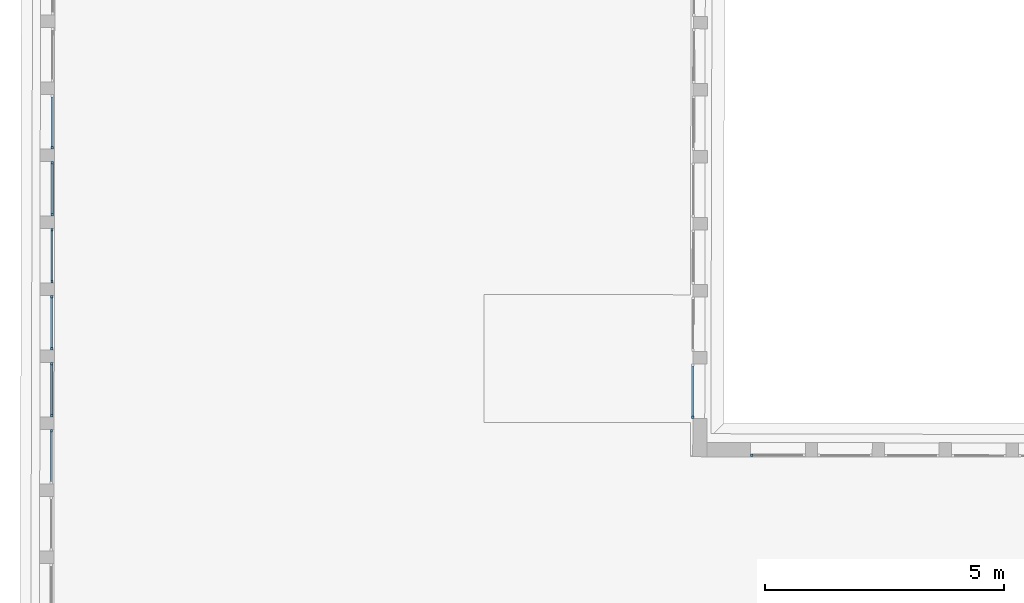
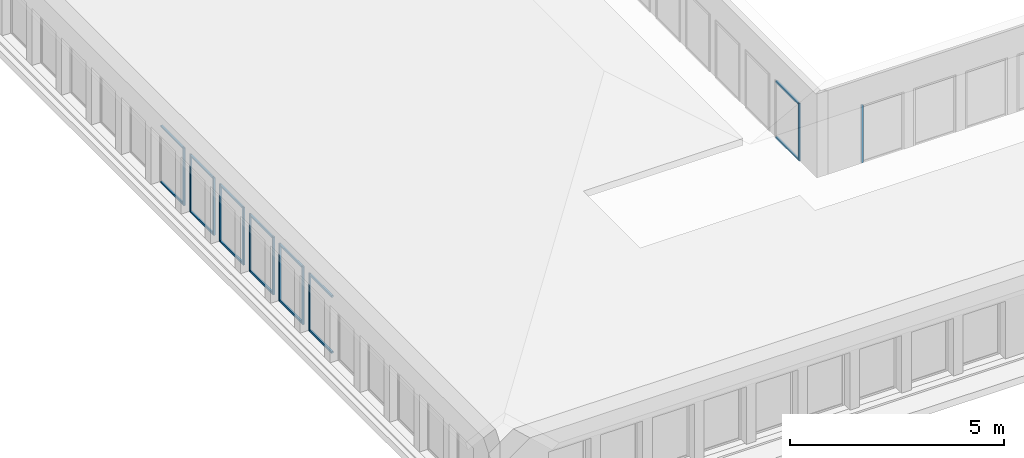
# One storey, part 3 of 26: 26 members, 8 elements without a shape of their own.
"""IFC2X3 building model written with IfcOpenShell, lengths in metres."""

from ifc_helpers import new_model, entity, si_unit, converted_unit, derived_unit, direction, frame, origin, origin_2d_with_axis, place, context, subcontext, project, spatial, rectangle, extrude, source, transform, mapped, material, type_object, type_shapes, element, aggregate, save


model = new_model("IFC2X3")

# Units and contexts
model_context = context("Model", 3, precision=1e-05, world=origin(), true_north=direction((6.123233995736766e-17, 1.0)))
body_context = subcontext(model_context, "Body", "Model", "MODEL_VIEW")
ifc_project = project(units=[si_unit("LENGTHUNIT", "METRE"), si_unit("AREAUNIT", "SQUARE_METRE"), converted_unit("PLANEANGLEUNIT", "DEGREE", entity("IfcPlaneAngleMeasure", 0.017453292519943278), si_unit("PLANEANGLEUNIT", "RADIAN"), dimensions=[0, 0, 0, 0, 0, 0, 0]), derived_unit("THERMALTRANSMITTANCEUNIT", [(si_unit("MASSUNIT", "GRAM", prefix="KILO"), 1), (si_unit("THERMODYNAMICTEMPERATUREUNIT", "KELVIN"), -1), (si_unit("TIMEUNIT", "SECOND"), -3)])], contexts=[model_context])

# Site, building, storey
site_placement = place(None, frame((1253.6752467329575, 2072.143113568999, 91.49999999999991), z_axis=(0.0, 0.0, 1.0), x_axis=(0.7237211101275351, 0.6900925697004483, 0.0)))
site = spatial("IfcSite", under=ifc_project, at=site_placement, Name="Surface", CompositionType="ELEMENT")
building_placement = place(site_placement, origin())
building = spatial("IfcBuilding", under=site, at=building_placement, CompositionType="ELEMENT")
storey_placement = place(building_placement, frame((0.0, 0.0, 7.0)))
storey = spatial("IfcBuildingStorey", under=building, at=storey_placement, Name="2-R+2", CompositionType="ELEMENT", Elevation=6.999999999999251)

# Curtain wall, member
curtain_wall_type = type_object("IfcCurtainWallType", Name="Mur-rideau:Menuiserie Ext 1F+1OB VERTIC", PredefinedType="NOTDEFINED")
curtain_wall_1_placement = place(storey_placement, frame((0.0, 0.0, -7.0)))
curtain_wall_1 = element("IfcCurtainWall", 1, at=curtain_wall_1_placement, inside=storey, type_object=curtain_wall_type, Name="Mur-rideau:Menuiserie Ext 1F+1OB VERTIC", ObjectType="Mur-rideau:Menuiserie Ext 1F+1OB VERTIC")
ifc_material = material(Name="OMD_Aluminium Men Ext")
member_type_1 = type_object("IfcMemberType", Name="Meneau rectangulaire:50x50", PredefinedType="MULLION", material=ifc_material)
shared_shape_1 = source(origin(), body_context, "Body", "SweptSolid", [
    extrude(rectangle(XDim=0.05, YDim=0.049999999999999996, at=origin_2d_with_axis()), frame((-0.025, 0.0, -1.039999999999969), z_axis=(0.0, 0.0, 1.0), x_axis=(-1.0, 0.0, 0.0)), (0.0, 0.0, 1.0), 1.0399999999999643),
])
type_shapes(member_type_1, [shared_shape_1])
member_1_placement = place(curtain_wall_1_placement, frame((155.1214810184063, 15.730383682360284, 9.55), z_axis=(0.6911544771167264, 0.7227070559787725, 0.0), x_axis=(0.0, 0.0, 1.0)))
member_1 = element("IfcMember", 2, at=member_1_placement, type_object=member_type_1, material=ifc_material, Name="Meneau rectangulaire:50x50", ObjectType="Meneau rectangulaire:50x50", context=body_context, shape_type="MappedRepresentation", body=[
    mapped(shared_shape_1, transform((0.0, 0.0, 0.0), scale=1.0)),
])

curtain_wall_2_placement = place(storey_placement, frame((0.0, 0.0, -7.0)))
curtain_wall_2 = element("IfcCurtainWall", 3, at=curtain_wall_2_placement, inside=storey, type_object=curtain_wall_type, Name="Mur-rideau:Menuiserie Ext 1F+1OB VERTIC", ObjectType="Mur-rideau:Menuiserie Ext 1F+1OB VERTIC")
member_2_placement = place(curtain_wall_2_placement, frame((154.1527155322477, 14.71969409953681, 9.55), z_axis=(0.6911544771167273, 0.7227070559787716, 0.0), x_axis=(0.0, 0.0, 1.0)))
member_2 = element("IfcMember", 4, at=member_2_placement, type_object=member_type_1, material=ifc_material, Name="Meneau rectangulaire:50x50", ObjectType="Meneau rectangulaire:50x50", context=body_context, shape_type="MappedRepresentation", body=[
    mapped(shared_shape_1, transform((0.0, 0.0, 0.0), scale=1.0)),
])

curtain_wall_3_placement = place(storey_placement, frame((0.0, 0.0, -7.0)))
curtain_wall_3 = element("IfcCurtainWall", 5, at=curtain_wall_3_placement, inside=storey, type_object=curtain_wall_type, Name="Mur-rideau:Menuiserie Ext 1F+1OB VERTIC", ObjectType="Mur-rideau:Menuiserie Ext 1F+1OB VERTIC")
member_3_placement = place(curtain_wall_3_placement, frame((153.18395004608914, 13.709004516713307, 9.55), z_axis=(0.6911544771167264, 0.7227070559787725, 0.0), x_axis=(0.0, 0.0, 1.0)))
member_3 = element("IfcMember", 6, at=member_3_placement, type_object=member_type_1, material=ifc_material, Name="Meneau rectangulaire:50x50", ObjectType="Meneau rectangulaire:50x50", context=body_context, shape_type="MappedRepresentation", body=[
    mapped(shared_shape_1, transform((0.0, 0.0, 0.0), scale=1.0)),
])

curtain_wall_4_placement = place(storey_placement, frame((0.0, 0.0, -7.0)))
curtain_wall_4 = element("IfcCurtainWall", 7, at=curtain_wall_4_placement, inside=storey, type_object=curtain_wall_type, Name="Mur-rideau:Menuiserie Ext 1F+1OB VERTIC", ObjectType="Mur-rideau:Menuiserie Ext 1F+1OB VERTIC")
member_4_placement = place(curtain_wall_4_placement, frame((152.21518455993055, 12.698314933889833, 9.55), z_axis=(0.6911544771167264, 0.7227070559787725, 0.0), x_axis=(0.0, 0.0, 1.0)))
member_4 = element("IfcMember", 8, at=member_4_placement, type_object=member_type_1, material=ifc_material, Name="Meneau rectangulaire:50x50", ObjectType="Meneau rectangulaire:50x50", context=body_context, shape_type="MappedRepresentation", body=[
    mapped(shared_shape_1, transform((0.0, 0.0, 0.0), scale=1.0)),
])

curtain_wall_5_placement = place(storey_placement, frame((0.0, 0.0, -7.0)))
curtain_wall_5 = element("IfcCurtainWall", 9, at=curtain_wall_5_placement, inside=storey, type_object=curtain_wall_type, Name="Mur-rideau:Menuiserie Ext 1F+1OB VERTIC", ObjectType="Mur-rideau:Menuiserie Ext 1F+1OB VERTIC")
member_5_placement = place(curtain_wall_5_placement, frame((151.246419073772, 11.687625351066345, 9.55), z_axis=(0.6911544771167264, 0.7227070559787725, 0.0), x_axis=(0.0, 0.0, 1.0)))
member_5 = element("IfcMember", 10, at=member_5_placement, type_object=member_type_1, material=ifc_material, Name="Meneau rectangulaire:50x50", ObjectType="Meneau rectangulaire:50x50", context=body_context, shape_type="MappedRepresentation", body=[
    mapped(shared_shape_1, transform((0.0, 0.0, 0.0), scale=1.0)),
])

curtain_wall_6_placement = place(storey_placement, frame((0.0, 0.0, -7.0)))
curtain_wall_6 = element("IfcCurtainWall", 11, at=curtain_wall_6_placement, inside=storey, type_object=curtain_wall_type, Name="Mur-rideau:Menuiserie Ext 1F+1OB VERTIC", ObjectType="Mur-rideau:Menuiserie Ext 1F+1OB VERTIC")
member_6_placement = place(curtain_wall_6_placement, frame((150.27765358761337, 10.67693576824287, 9.55), z_axis=(0.6911544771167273, 0.7227070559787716, 0.0), x_axis=(0.0, 0.0, 1.0)))
member_6 = element("IfcMember", 12, at=member_6_placement, type_object=member_type_1, material=ifc_material, Name="Meneau rectangulaire:50x50", ObjectType="Meneau rectangulaire:50x50", context=body_context, shape_type="MappedRepresentation", body=[
    mapped(shared_shape_1, transform((0.0, 0.0, 0.0), scale=1.0)),
])

curtain_wall_7_placement = place(storey_placement, frame((0.0, 0.0, -7.0)))
curtain_wall_7 = element("IfcCurtainWall", 13, at=curtain_wall_7_placement, inside=storey, type_object=curtain_wall_type, Name="Mur-rideau:Menuiserie Ext 1F+1OB VERTIC", ObjectType="Mur-rideau:Menuiserie Ext 1F+1OB VERTIC")
member_7_placement = place(curtain_wall_7_placement, frame((160.9263963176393, 2.419897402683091, 9.55), z_axis=(0.69098381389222, 0.7228702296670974, 0.0), x_axis=(0.0, 0.0, 1.0)))
member_7 = element("IfcMember", 14, at=member_7_placement, type_object=member_type_1, material=ifc_material, Name="Meneau rectangulaire:50x50", ObjectType="Meneau rectangulaire:50x50", context=body_context, shape_type="MappedRepresentation", body=[
    mapped(shared_shape_1, transform((0.0, 0.0, 0.0), scale=1.0)),
])

# Member
member_type_2 = type_object("IfcMemberType", Name="Meneau rectangulaire:50x50", PredefinedType="MULLION", material=ifc_material)
shared_shape_2 = source(origin(), body_context, "Body", "SweptSolid", [
    extrude(rectangle(XDim=0.05, YDim=0.05, at=origin_2d_with_axis()), frame((-0.025, 0.0, -1.0399999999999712), z_axis=(0.0, 0.0, 1.0), x_axis=(-1.0, 0.0, 0.0)), (0.0, 0.0, 1.0), 1.0399999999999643),
])
type_shapes(member_type_2, [shared_shape_2])
member_8_placement = place(curtain_wall_1_placement, frame((154.4026803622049, 14.978768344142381, 7.9), z_axis=(-0.6911544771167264, -0.7227070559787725, 0.0), x_axis=(0.0, 0.0, -1.0)))
member_8 = element("IfcMember", 15, at=member_8_placement, type_object=member_type_2, material=ifc_material, Name="Meneau rectangulaire:50x50", ObjectType="Meneau rectangulaire:50x50", context=body_context, shape_type="MappedRepresentation", body=[
    mapped(shared_shape_2, transform((0.0, 0.0, 0.0), scale=1.0)),
])

member_9_placement = place(curtain_wall_2_placement, frame((153.43391487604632, 13.968078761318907, 7.9), z_axis=(-0.6911544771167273, -0.7227070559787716, 0.0), x_axis=(0.0, 0.0, -1.0)))
member_9 = element("IfcMember", 16, at=member_9_placement, type_object=member_type_2, material=ifc_material, Name="Meneau rectangulaire:50x50", ObjectType="Meneau rectangulaire:50x50", context=body_context, shape_type="MappedRepresentation", body=[
    mapped(shared_shape_2, transform((0.0, 0.0, 0.0), scale=1.0)),
])

member_10_placement = place(curtain_wall_3_placement, frame((152.46514938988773, 12.95738917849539, 7.9), z_axis=(-0.6911544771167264, -0.7227070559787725, 0.0), x_axis=(0.0, 0.0, -1.0)))
member_10 = element("IfcMember", 17, at=member_10_placement, type_object=member_type_2, material=ifc_material, Name="Meneau rectangulaire:50x50", ObjectType="Meneau rectangulaire:50x50", context=body_context, shape_type="MappedRepresentation", body=[
    mapped(shared_shape_2, transform((0.0, 0.0, 0.0), scale=1.0)),
])

member_11_placement = place(curtain_wall_4_placement, frame((151.49638390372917, 11.94669959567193, 7.9), z_axis=(-0.6911544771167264, -0.7227070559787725, 0.0), x_axis=(0.0, 0.0, -1.0)))
member_11 = element("IfcMember", 18, at=member_11_placement, type_object=member_type_2, material=ifc_material, Name="Meneau rectangulaire:50x50", ObjectType="Meneau rectangulaire:50x50", context=body_context, shape_type="MappedRepresentation", body=[
    mapped(shared_shape_2, transform((0.0, 0.0, 0.0), scale=1.0)),
])

member_12_placement = place(curtain_wall_5_placement, frame((150.52761841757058, 10.936010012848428, 7.9), z_axis=(-0.6911544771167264, -0.7227070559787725, 0.0), x_axis=(0.0, 0.0, -1.0)))
member_12 = element("IfcMember", 19, at=member_12_placement, type_object=member_type_2, material=ifc_material, Name="Meneau rectangulaire:50x50", ObjectType="Meneau rectangulaire:50x50", context=body_context, shape_type="MappedRepresentation", body=[
    mapped(shared_shape_2, transform((0.0, 0.0, 0.0), scale=1.0)),
])

member_13_placement = place(curtain_wall_6_placement, frame((149.55885293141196, 9.925320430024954, 7.9), z_axis=(-0.6911544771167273, -0.7227070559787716, 0.0), x_axis=(0.0, 0.0, -1.0)))
member_13 = element("IfcMember", 20, at=member_13_placement, type_object=member_type_2, material=ifc_material, Name="Meneau rectangulaire:50x50", ObjectType="Meneau rectangulaire:50x50", context=body_context, shape_type="MappedRepresentation", body=[
    mapped(shared_shape_2, transform((0.0, 0.0, 0.0), scale=1.0)),
])

member_14_placement = place(curtain_wall_7_placement, frame((160.20777315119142, 1.6681123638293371, 7.9), z_axis=(-0.69098381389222, -0.7228702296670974, 0.0), x_axis=(0.0, 0.0, -1.0)))
member_14 = element("IfcMember", 21, at=member_14_placement, type_object=member_type_2, material=ifc_material, Name="Meneau rectangulaire:50x50", ObjectType="Meneau rectangulaire:50x50", context=body_context, shape_type="MappedRepresentation", body=[
    mapped(shared_shape_2, transform((0.0, 0.0, 0.0), scale=1.0)),
])

member_type_3 = type_object("IfcMemberType", Name="Meneau rectangulaire:50x50", PredefinedType="MULLION", material=ifc_material)
shared_shape_3 = source(origin(), body_context, "Body", "SweptSolid", [
    extrude(rectangle(XDim=0.05, YDim=0.05, at=origin_2d_with_axis()), frame((-0.025, 0.0, -1.6499999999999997), z_axis=(0.0, 0.0, 1.0), x_axis=(-1.0, 0.0, 0.0)), (0.0, 0.0, 1.0), 1.6499999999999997),
])
type_shapes(member_type_3, [shared_shape_3])
member_15_placement = place(curtain_wall_2_placement, frame((154.1872732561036, 14.75582945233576, 7.9), z_axis=(0.0, 0.0, -1.0), x_axis=(0.6911544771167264, 0.7227070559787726, 0.0)))
member_15 = element("IfcMember", 22, at=member_15_placement, type_object=member_type_3, material=ifc_material, Name="Meneau rectangulaire:50x50", ObjectType="Meneau rectangulaire:50x50", context=body_context, shape_type="MappedRepresentation", body=[
    mapped(shared_shape_3, transform((0.0, 0.0, 0.0), scale=1.0)),
])

member_16_placement = place(curtain_wall_3_placement, frame((153.218507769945, 13.745139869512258, 7.9), z_axis=(0.0, 0.0, -1.0), x_axis=(0.6911544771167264, 0.7227070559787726, 0.0)))
member_16 = element("IfcMember", 23, at=member_16_placement, type_object=member_type_3, material=ifc_material, Name="Meneau rectangulaire:50x50", ObjectType="Meneau rectangulaire:50x50", context=body_context, shape_type="MappedRepresentation", body=[
    mapped(shared_shape_3, transform((0.0, 0.0, 0.0), scale=1.0)),
])

member_17_placement = place(curtain_wall_4_placement, frame((152.24974228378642, 12.73445028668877, 7.9), z_axis=(0.0, 0.0, -1.0), x_axis=(0.6911544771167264, 0.7227070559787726, 0.0)))
member_17 = element("IfcMember", 24, at=member_17_placement, type_object=member_type_3, material=ifc_material, Name="Meneau rectangulaire:50x50", ObjectType="Meneau rectangulaire:50x50", context=body_context, shape_type="MappedRepresentation", body=[
    mapped(shared_shape_3, transform((0.0, 0.0, 0.0), scale=1.0)),
])

member_18_placement = place(curtain_wall_5_placement, frame((151.28097679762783, 11.723760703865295, 7.9), z_axis=(0.0, 0.0, -1.0), x_axis=(0.6911544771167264, 0.7227070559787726, 0.0)))
member_18 = element("IfcMember", 25, at=member_18_placement, type_object=member_type_3, material=ifc_material, Name="Meneau rectangulaire:50x50", ObjectType="Meneau rectangulaire:50x50", context=body_context, shape_type="MappedRepresentation", body=[
    mapped(shared_shape_3, transform((0.0, 0.0, 0.0), scale=1.0)),
])

member_19_placement = place(curtain_wall_6_placement, frame((150.3122113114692, 10.713071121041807, 7.9), z_axis=(0.0, 0.0, -1.0), x_axis=(0.6911544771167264, 0.7227070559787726, 0.0)))
member_19 = element("IfcMember", 26, at=member_19_placement, type_object=member_type_3, material=ifc_material, Name="Meneau rectangulaire:50x50", ObjectType="Meneau rectangulaire:50x50", context=body_context, shape_type="MappedRepresentation", body=[
    mapped(shared_shape_3, transform((0.0, 0.0, 0.0), scale=1.0)),
])

aggregate(curtain_wall_6, [member_6, member_13, member_19])

member_type_4 = type_object("IfcMemberType", Name="Meneau rectangulaire:50x50", PredefinedType="MULLION", material=ifc_material)
shared_shape_4 = source(origin(), body_context, "Body", "SweptSolid", [
    extrude(rectangle(XDim=0.05, YDim=0.05000000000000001, at=origin_2d_with_axis()), frame((-0.025, 0.0, -1.6499999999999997), z_axis=(0.0, 0.0, 1.0), x_axis=(-1.0, 0.0, 0.0)), (0.0, 0.0, 1.0), 1.6499999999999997),
])
type_shapes(member_type_4, [shared_shape_4])
member_20_placement = place(curtain_wall_1_placement, frame((154.36812263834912, 14.942632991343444, 9.55), z_axis=(0.0, 0.0, 1.0), x_axis=(-0.6911544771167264, -0.7227070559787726, 0.0)))
member_20 = element("IfcMember", 27, at=member_20_placement, type_object=member_type_4, material=ifc_material, Name="Meneau rectangulaire:50x50", ObjectType="Meneau rectangulaire:50x50", context=body_context, shape_type="MappedRepresentation", body=[
    mapped(shared_shape_4, transform((0.0, 0.0, 0.0), scale=1.0)),
])

aggregate(curtain_wall_1, [member_1, member_8, member_20])

member_21_placement = place(curtain_wall_2_placement, frame((153.39935715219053, 13.93194340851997, 9.55), z_axis=(0.0, 0.0, 1.0), x_axis=(-0.6911544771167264, -0.7227070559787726, 0.0)))
member_21 = element("IfcMember", 28, at=member_21_placement, type_object=member_type_4, material=ifc_material, Name="Meneau rectangulaire:50x50", ObjectType="Meneau rectangulaire:50x50", context=body_context, shape_type="MappedRepresentation", body=[
    mapped(shared_shape_4, transform((0.0, 0.0, 0.0), scale=1.0)),
])

aggregate(curtain_wall_2, [member_2, member_9, member_15, member_21])

member_22_placement = place(curtain_wall_3_placement, frame((152.43059166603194, 12.921253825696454, 9.55), z_axis=(0.0, 0.0, 1.0), x_axis=(-0.6911544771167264, -0.7227070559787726, 0.0)))
member_22 = element("IfcMember", 29, at=member_22_placement, type_object=member_type_4, material=ifc_material, Name="Meneau rectangulaire:50x50", ObjectType="Meneau rectangulaire:50x50", context=body_context, shape_type="MappedRepresentation", body=[
    mapped(shared_shape_4, transform((0.0, 0.0, 0.0), scale=1.0)),
])

aggregate(curtain_wall_3, [member_3, member_10, member_16, member_22])

member_23_placement = place(curtain_wall_4_placement, frame((151.46182617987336, 11.91056424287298, 9.55), z_axis=(0.0, 0.0, 1.0), x_axis=(-0.6911544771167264, -0.7227070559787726, 0.0)))
member_23 = element("IfcMember", 30, at=member_23_placement, type_object=member_type_4, material=ifc_material, Name="Meneau rectangulaire:50x50", ObjectType="Meneau rectangulaire:50x50", context=body_context, shape_type="MappedRepresentation", body=[
    mapped(shared_shape_4, transform((0.0, 0.0, 0.0), scale=1.0)),
])

aggregate(curtain_wall_4, [member_4, member_11, member_17, member_23])

member_24_placement = place(curtain_wall_5_placement, frame((150.49306069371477, 10.899874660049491, 9.55), z_axis=(0.0, 0.0, 1.0), x_axis=(-0.6911544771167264, -0.7227070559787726, 0.0)))
member_24 = element("IfcMember", 31, at=member_24_placement, type_object=member_type_4, material=ifc_material, Name="Meneau rectangulaire:50x50", ObjectType="Meneau rectangulaire:50x50", context=body_context, shape_type="MappedRepresentation", body=[
    mapped(shared_shape_4, transform((0.0, 0.0, 0.0), scale=1.0)),
])

aggregate(curtain_wall_5, [member_5, member_12, member_18, member_24])

member_25_placement = place(curtain_wall_7_placement, frame((160.17322396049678, 1.6319688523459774, 9.55), z_axis=(0.0, 0.0, 1.0), x_axis=(-0.6909838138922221, -0.7228702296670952, 0.0)))
member_25 = element("IfcMember", 32, at=member_25_placement, type_object=member_type_4, material=ifc_material, Name="Meneau rectangulaire:50x50", ObjectType="Meneau rectangulaire:50x50", context=body_context, shape_type="MappedRepresentation", body=[
    mapped(shared_shape_4, transform((0.0, 0.0, 0.0), scale=1.0)),
])

aggregate(curtain_wall_7, [member_7, member_14, member_25])

# Curtain wall, member
curtain_wall_8_placement = place(storey_placement, frame((0.0, 0.0, -7.0)))
curtain_wall_8 = element("IfcCurtainWall", 33, at=curtain_wall_8_placement, inside=storey, type_object=curtain_wall_type, Name="Mur-rideau:Menuiserie Ext 1F+1OB VERTIC", ObjectType="Mur-rideau:Menuiserie Ext 1F+1OB VERTIC")
member_26_placement = place(curtain_wall_8_placement, frame((160.517304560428, 0.24045253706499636, 9.55), z_axis=(0.0, 0.0, 1.0), x_axis=(-0.7228702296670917, 0.6909838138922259, 0.0)))
member_26 = element("IfcMember", 34, at=member_26_placement, type_object=member_type_4, material=ifc_material, Name="Meneau rectangulaire:50x50", ObjectType="Meneau rectangulaire:50x50", context=body_context, shape_type="MappedRepresentation", body=[
    mapped(shared_shape_4, transform((0.0, 0.0, 0.0), scale=1.0)),
])
aggregate(curtain_wall_8, [member_26])

save(model, "model.ifc")
